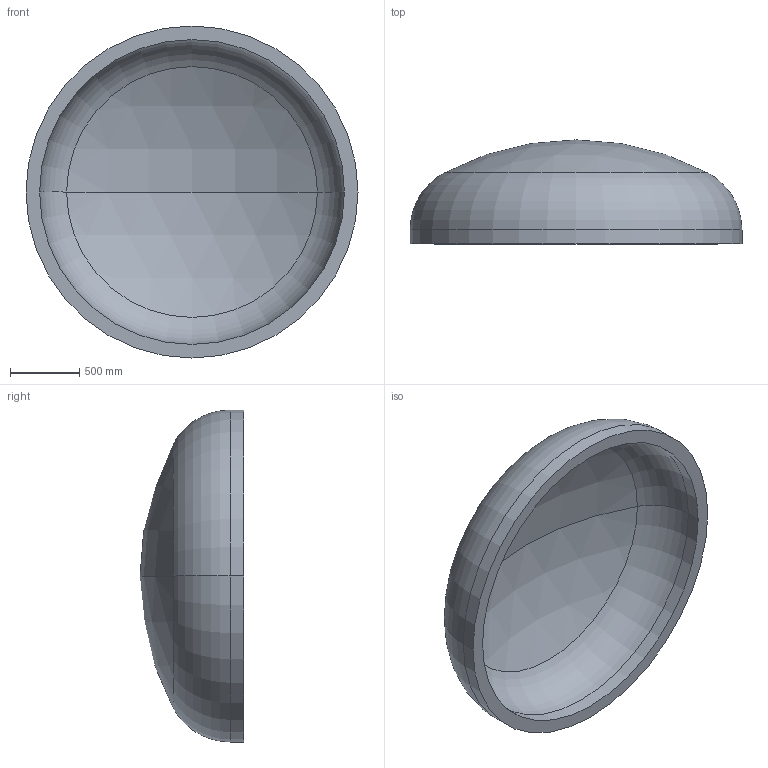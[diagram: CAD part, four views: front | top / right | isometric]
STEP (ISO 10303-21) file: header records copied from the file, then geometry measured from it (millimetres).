
FILE_DESCRIPTION (( 'STEP AP203' ), '1' );
FILE_NAME ('DIN 28013 Korbbogenform_-_Boden DIN 28013 - 2400 x 100 - I - s=98.step', '2016-07-01T15:41:34', ( '' ), ( '' ), 'SwSTEP 2.0', 'SolidWorks 2013', '' );
FILE_SCHEMA (( 'CONFIG_CONTROL_DESIGN' ));
Length unit declared in the file: millimetre
Products named in the file (1): DIN 28013 Korbbogenform_-_Boden DIN 28013 - 2400 x 100 - I - s=98
Bounding box: 2400 x 751.74 x 2400 mm (x, y, z)
Volume: 653402273.1 mm3; surface area: 14063581.6 mm2
Topology: 1 solids, 1 shells, 13 faces, 24 edges, 14 vertices
Faces by surface type: torus 4, cylinder 4, sphere 4, plane 1
Entity records: 407 total; most frequent: DIRECTION 72, CARTESIAN_POINT 52, ORIENTED_EDGE 48, AXIS2_PLACEMENT_3D 34, EDGE_CURVE 24, CIRCLE 20, EDGE_LOOP 14, VERTEX_POINT 14
